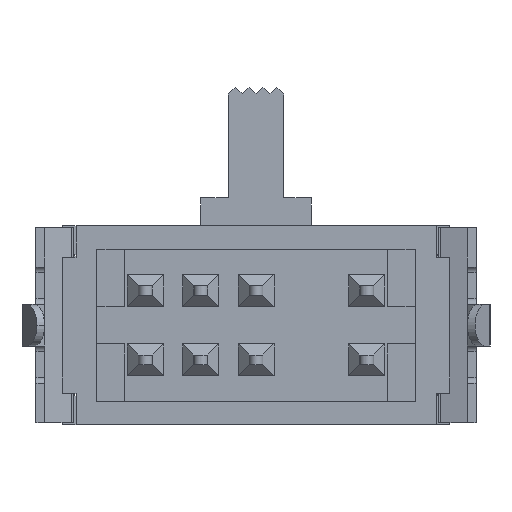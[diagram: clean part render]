
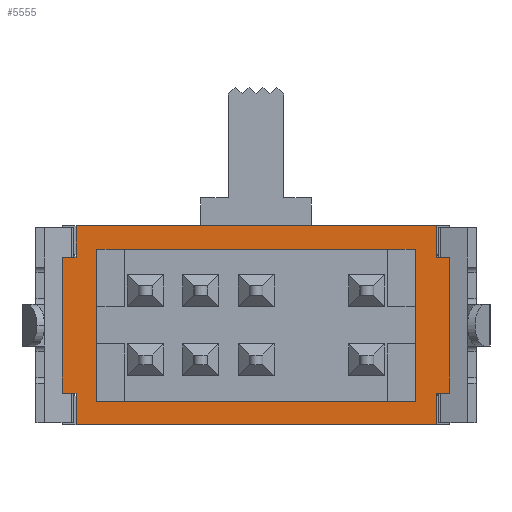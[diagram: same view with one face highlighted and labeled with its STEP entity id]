
A CAD part, front view. The second image highlights one B-rep face of the part: STEP entity #5555.
In plain terms, the highlighted planar face has unit normal (0, -1, 0).
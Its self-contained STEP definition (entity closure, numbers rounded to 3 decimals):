
#1961 = VERTEX_POINT ( 'NONE', #12085 ) ;
#2375 = VERTEX_POINT ( 'NONE', #2584 ) ;
#2385 = VERTEX_POINT ( 'NONE', #2615 ) ;
#2386 = VERTEX_POINT ( 'NONE', #2614 ) ;
#2392 = VERTEX_POINT ( 'NONE', #2653 ) ;
#2394 = EDGE_CURVE ( 'NONE', #2402, #2392, #2652, .T. ) ;
#2396 = EDGE_CURVE ( 'NONE', #1961, #2402, #2648, .T. ) ;
#2397 = EDGE_CURVE ( 'NONE', #2392, #2409, #2644, .T. ) ;
#2402 = VERTEX_POINT ( 'NONE', #2632 ) ;
#2409 = VERTEX_POINT ( 'NONE', #2702 ) ;
#2452 = EDGE_CURVE ( 'NONE', #2375, #2386, #2750, .T. ) ;
#2454 = VERTEX_POINT ( 'NONE', #2745 ) ;
#2458 = EDGE_CURVE ( 'NONE', #2454, #2385, #2799, .T. ) ;
#2584 = CARTESIAN_POINT ( 'NONE',  ( -5.75, 1.4, -2.75 ) ) ;
#2614 = CARTESIAN_POINT ( 'NONE',  ( 5.75, 1.4, -2.75 ) ) ;
#2615 = CARTESIAN_POINT ( 'NONE',  ( -5.75, 1.4, 2.75 ) ) ;
#2632 = CARTESIAN_POINT ( 'NONE',  ( -7., 1.4, -2.45 ) ) ;
#2641 = DIRECTION ( 'NONE',  ( 1., 0., 0. ) ) ;
#2642 = VECTOR ( 'NONE', #2641, 1000. ) ;
#2643 = CARTESIAN_POINT ( 'NONE',  ( -7., 1.4, 2.45 ) ) ;
#2644 = LINE ( 'NONE', #2643, #2642 ) ;
#2645 = DIRECTION ( 'NONE',  ( -1., 0., 0. ) ) ;
#2646 = VECTOR ( 'NONE', #2645, 1000. ) ;
#2647 = CARTESIAN_POINT ( 'NONE',  ( -7., 1.4, -2.45 ) ) ;
#2648 = LINE ( 'NONE', #2647, #2646 ) ;
#2649 = DIRECTION ( 'NONE',  ( 0., 0., 1. ) ) ;
#2650 = VECTOR ( 'NONE', #2649, 1000. ) ;
#2651 = CARTESIAN_POINT ( 'NONE',  ( -7., 1.4, 3.6 ) ) ;
#2652 = LINE ( 'NONE', #2651, #2650 ) ;
#2653 = CARTESIAN_POINT ( 'NONE',  ( -7., 1.4, 2.45 ) ) ;
#2702 = CARTESIAN_POINT ( 'NONE',  ( -6.5, 1.4, 2.45 ) ) ;
#2745 = CARTESIAN_POINT ( 'NONE',  ( 5.75, 1.4, 2.75 ) ) ;
#2747 = DIRECTION ( 'NONE',  ( 1., 0., 0. ) ) ;
#2748 = VECTOR ( 'NONE', #2747, 1000. ) ;
#2749 = CARTESIAN_POINT ( 'NONE',  ( -7., 1.4, -2.75 ) ) ;
#2750 = LINE ( 'NONE', #2749, #2748 ) ;
#2796 = DIRECTION ( 'NONE',  ( -1., 0., 0. ) ) ;
#2797 = VECTOR ( 'NONE', #2796, 1000. ) ;
#2798 = CARTESIAN_POINT ( 'NONE',  ( -7., 1.4, 2.75 ) ) ;
#2799 = LINE ( 'NONE', #2798, #2797 ) ;
#3032 = DIRECTION ( 'NONE',  ( 0., 0., 1. ) ) ;
#3033 = VECTOR ( 'NONE', #3032, 1000. ) ;
#3034 = CARTESIAN_POINT ( 'NONE',  ( 6.5, 1.4, -3.6 ) ) ;
#3035 = LINE ( 'NONE', #3034, #3033 ) ;
#3036 = DIRECTION ( 'NONE',  ( 1., 0., 0. ) ) ;
#3037 = VECTOR ( 'NONE', #3036, 1000. ) ;
#3038 = CARTESIAN_POINT ( 'NONE',  ( -7., 1.4, 3.6 ) ) ;
#3039 = LINE ( 'NONE', #3038, #3037 ) ;
#3040 = DIRECTION ( 'NONE',  ( 0., 0., 1. ) ) ;
#3041 = VECTOR ( 'NONE', #3040, 1000. ) ;
#3042 = CARTESIAN_POINT ( 'NONE',  ( 5.75, 1.4, 3.6 ) ) ;
#3043 = LINE ( 'NONE', #3042, #3041 ) ;
#3044 = CARTESIAN_POINT ( 'NONE',  ( 7., 1.4, 2.45 ) ) ;
#3045 = DIRECTION ( 'NONE',  ( 0., 0., -1. ) ) ;
#3046 = VECTOR ( 'NONE', #3045, 1000. ) ;
#3047 = CARTESIAN_POINT ( 'NONE',  ( 7., 1.4, 3.6 ) ) ;
#3048 = LINE ( 'NONE', #3047, #3046 ) ;
#3049 = CARTESIAN_POINT ( 'NONE',  ( 7., 1.4, -2.45 ) ) ;
#3050 = CARTESIAN_POINT ( 'NONE',  ( 6.5, 1.4, 2.45 ) ) ;
#3061 = LINE ( 'NONE', #3120, #3119 ) ;
#3062 = DIRECTION ( 'NONE',  ( 0., 0., 1. ) ) ;
#3063 = DIRECTION ( 'NONE',  ( 0., 1., 0. ) ) ;
#3064 = CARTESIAN_POINT ( 'NONE',  ( -7., 1.4, 3.6 ) ) ;
#3065 = AXIS2_PLACEMENT_3D ( 'NONE', #3064, #3063, #3062 ) ;
#3066 = PLANE ( 'NONE',  #3065 ) ;
#3081 = FACE_OUTER_BOUND ( 'NONE', #5545, .T. ) ;
#3082 = FACE_BOUND ( 'NONE', #5559, .T. ) ;
#3104 = CARTESIAN_POINT ( 'NONE',  ( -6.5, 1.4, 3.6 ) ) ;
#3110 = DIRECTION ( 'NONE',  ( 0., 0., 1. ) ) ;
#3111 = VECTOR ( 'NONE', #3110, 1000. ) ;
#3112 = CARTESIAN_POINT ( 'NONE',  ( -6.5, 1.4, 3.6 ) ) ;
#3113 = LINE ( 'NONE', #3112, #3111 ) ;
#3118 = DIRECTION ( 'NONE',  ( 0., 0., 1. ) ) ;
#3119 = VECTOR ( 'NONE', #3118, 1000. ) ;
#3120 = CARTESIAN_POINT ( 'NONE',  ( -6.5, 1.4, 3.6 ) ) ;
#3121 = LINE ( 'NONE', #3177, #3176 ) ;
#3169 = CARTESIAN_POINT ( 'NONE',  ( 6.5, 1.4, 3.6 ) ) ;
#3175 = DIRECTION ( 'NONE',  ( 1., 0., 0. ) ) ;
#3176 = VECTOR ( 'NONE', #3175, 1000. ) ;
#3177 = CARTESIAN_POINT ( 'NONE',  ( -4.5, 1.4, 2.45 ) ) ;
#3191 = CARTESIAN_POINT ( 'NONE',  ( 6.5, 1.4, -2.45 ) ) ;
#3192 = DIRECTION ( 'NONE',  ( 0., 0., 1. ) ) ;
#3193 = VECTOR ( 'NONE', #3192, 1000. ) ;
#3194 = CARTESIAN_POINT ( 'NONE',  ( 6.5, 1.4, -3.6 ) ) ;
#3195 = LINE ( 'NONE', #3194, #3193 ) ;
#3196 = DIRECTION ( 'NONE',  ( -1., 0., 0. ) ) ;
#3197 = VECTOR ( 'NONE', #3196, 1000. ) ;
#3198 = CARTESIAN_POINT ( 'NONE',  ( -4.5, 1.4, -2.45 ) ) ;
#3199 = LINE ( 'NONE', #3198, #3197 ) ;
#3773 = CARTESIAN_POINT ( 'NONE',  ( 6.5, 1.4, -3.6 ) ) ;
#3774 = DIRECTION ( 'NONE',  ( -1., 0., 0. ) ) ;
#3775 = VECTOR ( 'NONE', #3774, 1000. ) ;
#3776 = CARTESIAN_POINT ( 'NONE',  ( -7., 1.4, -3.6 ) ) ;
#3777 = LINE ( 'NONE', #3776, #3775 ) ;
#3810 = CARTESIAN_POINT ( 'NONE',  ( -6.5, 1.4, -3.6 ) ) ;
#3992 = DIRECTION ( 'NONE',  ( 0., 0., -1. ) ) ;
#3993 = VECTOR ( 'NONE', #3992, 1000. ) ;
#3994 = CARTESIAN_POINT ( 'NONE',  ( -5.75, 1.4, 3.6 ) ) ;
#3995 = LINE ( 'NONE', #3994, #3993 ) ;
#5538 = ORIENTED_EDGE ( 'NONE', *, *, #5551, .T. ) ;
#5539 = VERTEX_POINT ( 'NONE', #3050 ) ;
#5540 = ORIENTED_EDGE ( 'NONE', *, *, #5549, .F. ) ;
#5541 = VERTEX_POINT ( 'NONE', #3049 ) ;
#5542 = ORIENTED_EDGE ( 'NONE', *, *, #5543, .F. ) ;
#5543 = EDGE_CURVE ( 'NONE', #5544, #5541, #3048, .T. ) ;
#5544 = VERTEX_POINT ( 'NONE', #3044 ) ;
#5545 = EDGE_LOOP ( 'NONE', ( #5538, #5540, #5614, #5613, #5547, #5609, #5607, #5608, #5615, #5611, #5542, #5589 ) ) ;
#5546 = ORIENTED_EDGE ( 'NONE', *, *, #2452, .F. ) ;
#5547 = ORIENTED_EDGE ( 'NONE', *, *, #2394, .F. ) ;
#5548 = EDGE_CURVE ( 'NONE', #2386, #2454, #3043, .T. ) ;
#5549 = EDGE_CURVE ( 'NONE', #5571, #5594, #3039, .T. ) ;
#5551 = EDGE_CURVE ( 'NONE', #5539, #5594, #3035, .T. ) ;
#5555 = ADVANCED_FACE ( 'NONE', ( #3082, #3081 ), #3066, .F. ) ;
#5556 = EDGE_CURVE ( 'NONE', #5844, #1961, #3061, .T. ) ;
#5559 = EDGE_LOOP ( 'NONE', ( #5560, #5561, #5610, #5546 ) ) ;
#5560 = ORIENTED_EDGE ( 'NONE', *, *, #5903, .F. ) ;
#5561 = ORIENTED_EDGE ( 'NONE', *, *, #2458, .F. ) ;
#5564 = EDGE_CURVE ( 'NONE', #2409, #5571, #3113, .T. ) ;
#5571 = VERTEX_POINT ( 'NONE', #3104 ) ;
#5589 = ORIENTED_EDGE ( 'NONE', *, *, #5590, .F. ) ;
#5590 = EDGE_CURVE ( 'NONE', #5539, #5544, #3121, .T. ) ;
#5594 = VERTEX_POINT ( 'NONE', #3169 ) ;
#5607 = ORIENTED_EDGE ( 'NONE', *, *, #5556, .F. ) ;
#5608 = ORIENTED_EDGE ( 'NONE', *, *, #5841, .F. ) ;
#5609 = ORIENTED_EDGE ( 'NONE', *, *, #2396, .F. ) ;
#5610 = ORIENTED_EDGE ( 'NONE', *, *, #5548, .F. ) ;
#5611 = ORIENTED_EDGE ( 'NONE', *, *, #5612, .F. ) ;
#5612 = EDGE_CURVE ( 'NONE', #5541, #5617, #3199, .T. ) ;
#5613 = ORIENTED_EDGE ( 'NONE', *, *, #2397, .F. ) ;
#5614 = ORIENTED_EDGE ( 'NONE', *, *, #5564, .F. ) ;
#5615 = ORIENTED_EDGE ( 'NONE', *, *, #5616, .T. ) ;
#5616 = EDGE_CURVE ( 'NONE', #5842, #5617, #3195, .T. ) ;
#5617 = VERTEX_POINT ( 'NONE', #3191 ) ;
#5841 = EDGE_CURVE ( 'NONE', #5842, #5844, #3777, .T. ) ;
#5842 = VERTEX_POINT ( 'NONE', #3773 ) ;
#5844 = VERTEX_POINT ( 'NONE', #3810 ) ;
#5903 = EDGE_CURVE ( 'NONE', #2385, #2375, #3995, .T. ) ;
#12085 = CARTESIAN_POINT ( 'NONE',  ( -6.5, 1.4, -2.45 ) ) ;
